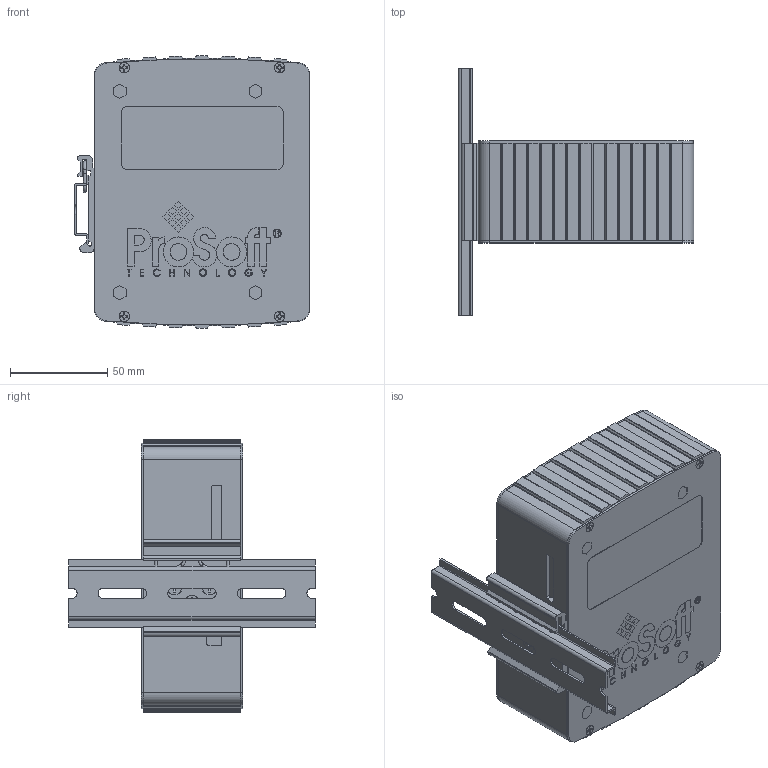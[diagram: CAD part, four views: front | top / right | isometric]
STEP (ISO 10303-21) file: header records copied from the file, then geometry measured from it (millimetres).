
FILE_DESCRIPTION (( '972-1000' ), '1' );
FILE_NAME ('PLX82-EIP-PNC', 'Revision 00', ( 'ProSoft Technology' ), ( 'ProSoft Technology' ), '', '', '' );
FILE_SCHEMA (( 'AUTOMOTIVE_DESIGN' ));
Products named in the file (1): PLX82-EIP-PNC 3D Model
Bounding box: 121.23 x 127 x 140.08 mm (x, y, z)
Volume: 760173.4 mm3; surface area: 99100.3 mm2
Topology: 1 solids, 13 shells, 4063 faces, 11315 edges, 7499 vertices
Faces by surface type: plane 2812, cylinder 800, extrusion 304, cone 106, torus 17, sphere 14, bspline 10
Full cylindrical faces by diameter (mm): 0.457 x14, 0.762 x6, 0.89 x8, 0.92 x2, 1.016 x8, 1.27 x2, 1.35 x1, 1.524 x10, 1.57 x1, 1.6 x6, 1.854 x3, 2.3 x2, 2.459 x2, 2.489 x2, 2.54 x1, 2.6 x2, 2.896 x6, 2.997 x6, 3.051 x6, 3.175 x2, 3.251 x1, 3.5 x1, 3.6 x3, 4 x3, 4.191 x3, 4.851 x4, 5.4 x4
Entity records: 143500 total; most frequent: CARTESIAN_POINT 40196, ORIENTED_EDGE 22090, DIRECTION 19679, EDGE_CURVE 11045, VECTOR 8531, LINE 8227, VERTEX_POINT 7388, AXIS2_PLACEMENT_3D 5574
